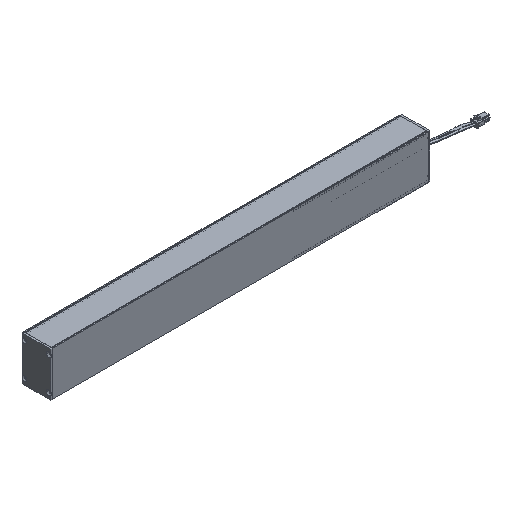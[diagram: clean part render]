
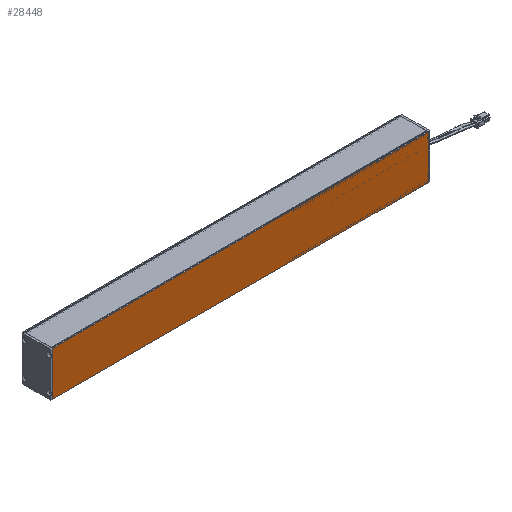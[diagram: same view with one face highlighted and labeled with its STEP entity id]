
A CAD part, isometric view. The second image highlights one B-rep face of the part: STEP entity #28448.
In plain terms, the highlighted planar face has unit normal (0, -1, 0).
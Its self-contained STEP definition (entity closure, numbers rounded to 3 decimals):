
#4136 = DIRECTION ( 'NONE',  ( 1., 0., 0. ) ) ;
#4979 = CARTESIAN_POINT ( 'NONE',  ( 400., 0., 47. ) ) ;
#6270 = CARTESIAN_POINT ( 'NONE',  ( 0., 0., 0. ) ) ;
#11263 = DIRECTION ( 'NONE',  ( 1., 0., 0. ) ) ;
#11733 = CARTESIAN_POINT ( 'NONE',  ( 0., 0., 23.5 ) ) ;
#11856 = CARTESIAN_POINT ( 'NONE',  ( 400., 0., 47. ) ) ;
#12242 = EDGE_CURVE ( 'NONE', #20945, #25262, #17474, .T. ) ;
#13472 = PLANE ( 'NONE',  #24541 ) ;
#13521 = EDGE_CURVE ( 'NONE', #25262, #21284, #18482, .T. ) ;
#13869 = ORIENTED_EDGE ( 'NONE', *, *, #22334, .T. ) ;
#14514 = CARTESIAN_POINT ( 'NONE',  ( 0., 0., 47. ) ) ;
#15153 = VERTEX_POINT ( 'NONE', #4979 ) ;
#15529 = VECTOR ( 'NONE', #23822, 1000. ) ;
#16562 = LINE ( 'NONE', #23671, #15529 ) ;
#16583 = CARTESIAN_POINT ( 'NONE',  ( 0., 0., 0. ) ) ;
#17474 = LINE ( 'NONE', #27131, #17987 ) ;
#17987 = VECTOR ( 'NONE', #24752, 1000. ) ;
#18482 = LINE ( 'NONE', #16583, #28583 ) ;
#18844 = FACE_OUTER_BOUND ( 'NONE', #24488, .T. ) ;
#18895 = ORIENTED_EDGE ( 'NONE', *, *, #12242, .T. ) ;
#20595 = CARTESIAN_POINT ( 'NONE',  ( 400., 0., 0. ) ) ;
#20945 = VERTEX_POINT ( 'NONE', #14514 ) ;
#21181 = DIRECTION ( 'NONE',  ( 0., 0., 1. ) ) ;
#21284 = VERTEX_POINT ( 'NONE', #20595 ) ;
#22334 = EDGE_CURVE ( 'NONE', #21284, #15153, #31114, .T. ) ;
#23671 = CARTESIAN_POINT ( 'NONE',  ( 0., 0., 47. ) ) ;
#23822 = DIRECTION ( 'NONE',  ( 1., 0., 0. ) ) ;
#23998 = ORIENTED_EDGE ( 'NONE', *, *, #13521, .T. ) ;
#24488 = EDGE_LOOP ( 'NONE', ( #13869, #30951, #18895, #23998 ) ) ;
#24541 = AXIS2_PLACEMENT_3D ( 'NONE', #11733, #25675, #11263 ) ;
#24752 = DIRECTION ( 'NONE',  ( 0., 0., -1. ) ) ;
#25262 = VERTEX_POINT ( 'NONE', #6270 ) ;
#25675 = DIRECTION ( 'NONE',  ( 0., -1., 0. ) ) ;
#25942 = VECTOR ( 'NONE', #21181, 1000. ) ;
#27131 = CARTESIAN_POINT ( 'NONE',  ( 0., 0., 47. ) ) ;
#28448 = ADVANCED_FACE ( 'NONE', ( #18844 ), #13472, .T. ) ;
#28583 = VECTOR ( 'NONE', #4136, 1000. ) ;
#30566 = EDGE_CURVE ( 'NONE', #20945, #15153, #16562, .T. ) ;
#30951 = ORIENTED_EDGE ( 'NONE', *, *, #30566, .F. ) ;
#31114 = LINE ( 'NONE', #11856, #25942 ) ;
